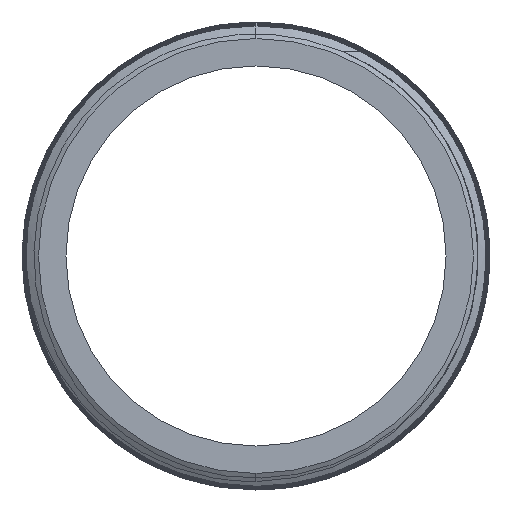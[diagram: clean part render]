
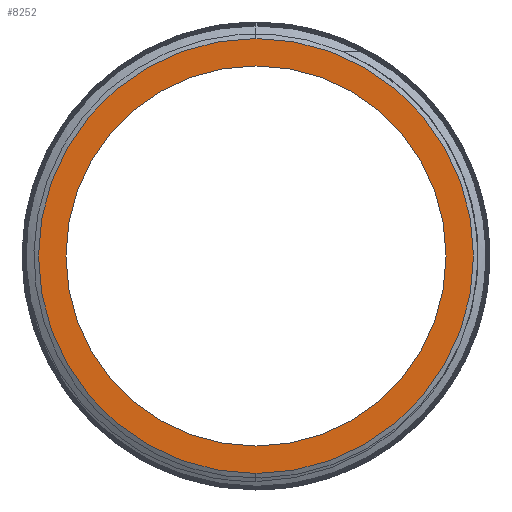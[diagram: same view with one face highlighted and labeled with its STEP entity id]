
A CAD part, left-side view. The second image highlights one B-rep face of the part: STEP entity #8252.
In plain terms, the highlighted planar face has unit normal (-1, 0, 0).
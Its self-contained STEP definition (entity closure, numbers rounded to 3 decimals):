
#269 = CARTESIAN_POINT ( 'NONE',  ( -125., 0., -9.9 ) ) ;
#378 = AXIS2_PLACEMENT_3D ( 'NONE', #10220, #4304, #2605 ) ;
#402 = VERTEX_POINT ( 'NONE', #269 ) ;
#447 = CARTESIAN_POINT ( 'NONE',  ( -125., 0., 0. ) ) ;
#562 = AXIS2_PLACEMENT_3D ( 'NONE', #2412, #9348, #7807 ) ;
#748 = EDGE_LOOP ( 'NONE', ( #5831, #7969 ) ) ;
#754 = DIRECTION ( 'NONE',  ( 0., 0., 1. ) ) ;
#855 = EDGE_LOOP ( 'NONE', ( #9308, #6277 ) ) ;
#1488 = AXIS2_PLACEMENT_3D ( 'NONE', #5071, #1666, #754 ) ;
#1666 = DIRECTION ( 'NONE',  ( -1., 0., 0. ) ) ;
#2412 = CARTESIAN_POINT ( 'NONE',  ( -125., 0., 0. ) ) ;
#2605 = DIRECTION ( 'NONE',  ( 0., 0., 1. ) ) ;
#2775 = CARTESIAN_POINT ( 'NONE',  ( -125., 8.65, 0. ) ) ;
#3042 = EDGE_CURVE ( 'NONE', #402, #6741, #10920, .T. ) ;
#3160 = CARTESIAN_POINT ( 'NONE',  ( -125., 0., -8.65 ) ) ;
#4182 = CIRCLE ( 'NONE', #562, 8.65 ) ;
#4268 = AXIS2_PLACEMENT_3D ( 'NONE', #447, #9209, #5785 ) ;
#4304 = DIRECTION ( 'NONE',  ( -1., 0., 0. ) ) ;
#4816 = CIRCLE ( 'NONE', #4268, 8.65 ) ;
#4892 = VERTEX_POINT ( 'NONE', #3160 ) ;
#5045 = EDGE_CURVE ( 'NONE', #6741, #402, #9832, .T. ) ;
#5071 = CARTESIAN_POINT ( 'NONE',  ( -125., 0., 0. ) ) ;
#5301 = CARTESIAN_POINT ( 'NONE',  ( -125., 0., 8.65 ) ) ;
#5503 = EDGE_CURVE ( 'NONE', #7887, #4892, #4182, .T. ) ;
#5550 = FACE_BOUND ( 'NONE', #748, .T. ) ;
#5785 = DIRECTION ( 'NONE',  ( 0., 0., 1. ) ) ;
#5831 = ORIENTED_EDGE ( 'NONE', *, *, #5503, .F. ) ;
#6277 = ORIENTED_EDGE ( 'NONE', *, *, #5045, .T. ) ;
#6305 = DIRECTION ( 'NONE',  ( 0., 0., -1. ) ) ;
#6741 = VERTEX_POINT ( 'NONE', #11077 ) ;
#7164 = AXIS2_PLACEMENT_3D ( 'NONE', #2775, #8862, #6305 ) ;
#7209 = FACE_OUTER_BOUND ( 'NONE', #855, .T. ) ;
#7807 = DIRECTION ( 'NONE',  ( 0., 0., 1. ) ) ;
#7887 = VERTEX_POINT ( 'NONE', #5301 ) ;
#7969 = ORIENTED_EDGE ( 'NONE', *, *, #8260, .F. ) ;
#8127 = PLANE ( 'NONE',  #7164 ) ;
#8252 = ADVANCED_FACE ( 'NONE', ( #5550, #7209 ), #8127, .F. ) ;
#8260 = EDGE_CURVE ( 'NONE', #4892, #7887, #4816, .T. ) ;
#8862 = DIRECTION ( 'NONE',  ( 1., 0., 0. ) ) ;
#9209 = DIRECTION ( 'NONE',  ( -1., 0., 0. ) ) ;
#9308 = ORIENTED_EDGE ( 'NONE', *, *, #3042, .T. ) ;
#9348 = DIRECTION ( 'NONE',  ( -1., 0., 0. ) ) ;
#9832 = CIRCLE ( 'NONE', #1488, 9.9 ) ;
#10220 = CARTESIAN_POINT ( 'NONE',  ( -125., 0., 0. ) ) ;
#10920 = CIRCLE ( 'NONE', #378, 9.9 ) ;
#11077 = CARTESIAN_POINT ( 'NONE',  ( -125., 0., 9.9 ) ) ;
